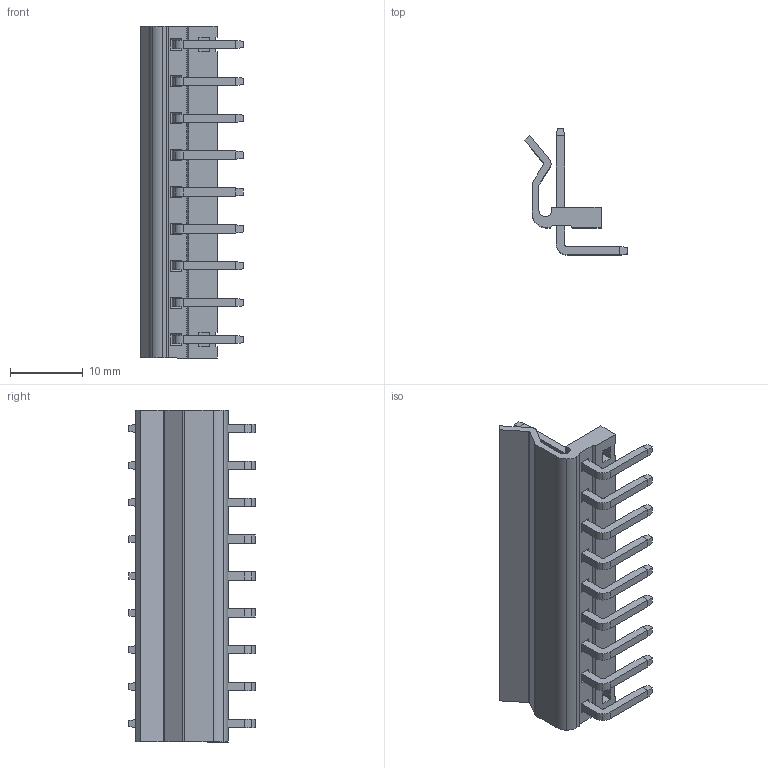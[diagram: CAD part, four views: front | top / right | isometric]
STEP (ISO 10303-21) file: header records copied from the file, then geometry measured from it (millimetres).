
FILE_DESCRIPTION (( 'STEP AP203' ), '1' );
FILE_NAME ('HC-5.08-9AW-02(詢俔-HCTL).STEP', '2024-08-08T01:40:24', ( '' ), ( '' ), 'SwSTEP 2.0', 'SolidWorks 2022', '' );
FILE_SCHEMA (( 'CONFIG_CONTROL_DESIGN' ));
Length unit declared in the file: millimetre
Products named in the file (1): HC-5.08-9AW-02(詢俔-HCTL)
Bounding box: 14.1 x 17.37 x 45.72 mm (x, y, z)
Volume: 1787.2 mm3; surface area: 3228.1 mm2
Topology: 1 solids, 1 shells, 296 faces, 714 edges, 440 vertices
Faces by surface type: plane 251, cylinder 45
Entity records: 8461 total; most frequent: CARTESIAN_POINT 1451, ORIENTED_EDGE 1428, DIRECTION 1398, EDGE_CURVE 714, VECTOR 624, LINE 624, VERTEX_POINT 440, AXIS2_PLACEMENT_3D 387
